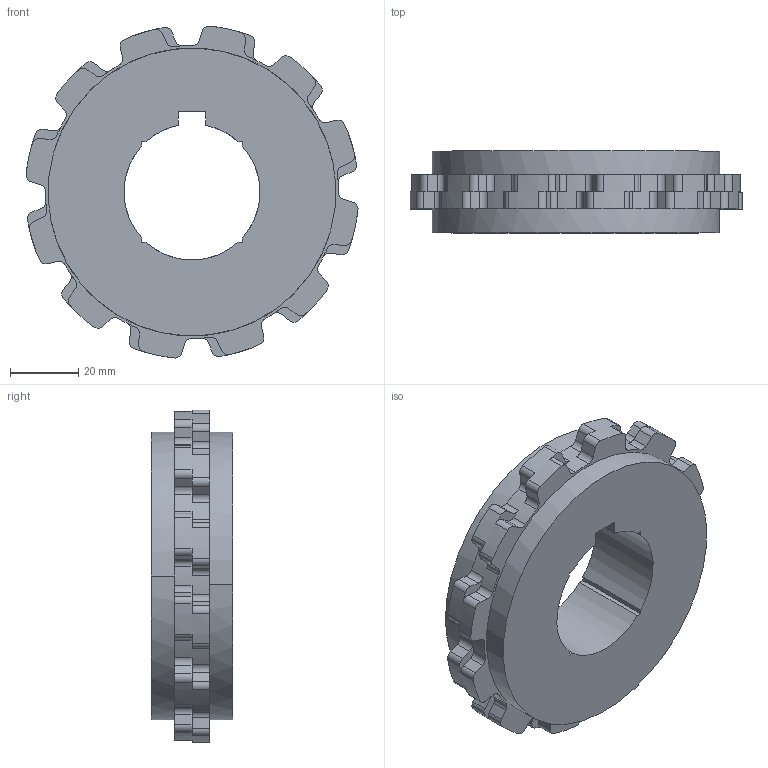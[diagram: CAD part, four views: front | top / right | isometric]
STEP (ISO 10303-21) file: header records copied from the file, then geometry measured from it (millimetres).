
FILE_DESCRIPTION(('CATIA V5 STEP Exchange'),'2;1');
FILE_NAME('C:\Users\ALI OZGUN\Desktop\alhan\TESLIMEDILEN3\391D40Z12.stp','2017-09-21T11:51:32+00:00',('none'),('none'),'CATIA Version 5 Release 21 GA (IN-10)','CATIA V5 STEP AP203','none');
FILE_SCHEMA(('CONFIG_CONTROL_DESIGN'));
Length unit declared in the file: millimetre
Products named in the file (1): 391D40Z12
Bounding box: 97.47 x 24 x 97.47 mm (x, y, z)
Volume: 115189.4 mm3; surface area: 22164.5 mm2
Topology: 1 solids, 1 shells, 216 faces, 636 edges, 424 vertices
Faces by surface type: cylinder 137, plane 79
Entity records: 6937 total; most frequent: CARTESIAN_POINT 1340, ORIENTED_EDGE 1272, DIRECTION 962, EDGE_CURVE 636, AXIS2_PLACEMENT_3D 479, VERTEX_POINT 424, VECTOR 311, LINE 311
